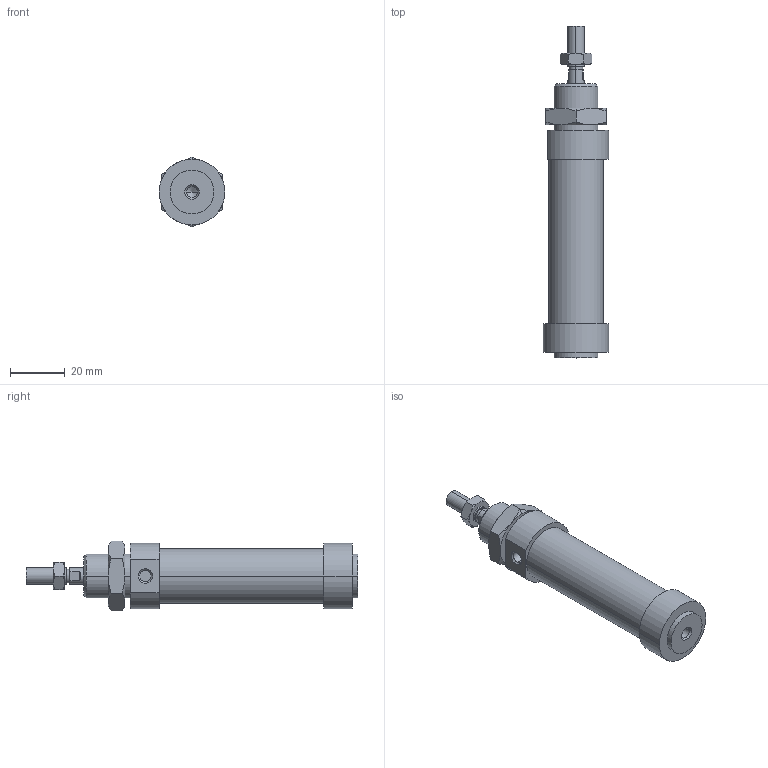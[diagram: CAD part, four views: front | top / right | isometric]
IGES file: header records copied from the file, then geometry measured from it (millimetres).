
Global section: file name: No Iges File Name specified; native system: AutoDesk Inventor R6.0; preprocessor: AutoDesk Inventor Iges Exporter R6.0; author: No Author specified; organization: No Organization specified; date: 20030402.184137; units: millimetre
Bounding box: 24 x 121 x 25.4 mm (x, y, z)
Volume: 34149.3 mm3; surface area: 11475 mm2
Topology: 4 solids, 4 shells, 108 faces, 229 edges, 135 vertices
Faces by surface type: cone 34, plane 33, bspline 21, cylinder 16, revolution 4
